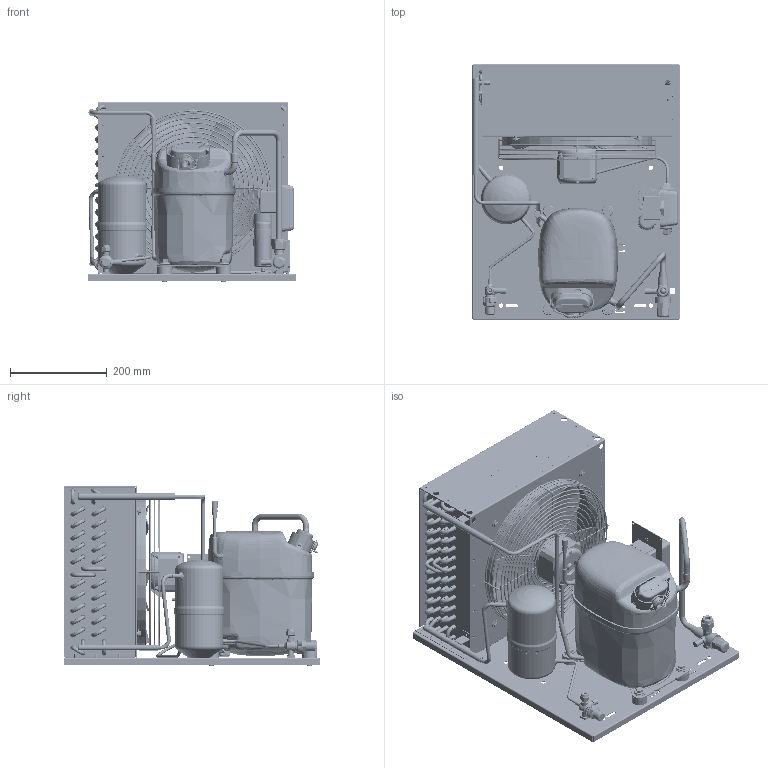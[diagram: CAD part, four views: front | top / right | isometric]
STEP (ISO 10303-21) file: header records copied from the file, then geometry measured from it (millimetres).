
FILE_DESCRIPTION(/* description */ ('Unknown'),/* implementation_level */ '2;1');
FILE_NAME(/* name */ '2298-0041_',/* time_stamp */ '2022-01-10T12:25:14+01:00',/* author */ ('Unknown'),/* organization */ ('Unknown'),/* preprocessor_version */ 'ST-DEVELOPER v16.7',/* originating_system */ 'Solid Edge',/* authorisation */ 'Unknown');
FILE_SCHEMA (('AUTOMOTIVE_DESIGN {1 0 10303 214 3 1 1}'));
Products named in the file (65): 2298-0041; 92505125_oa_0_0; 1440350c70_0; r50119606_0; r50119607_0; r50119601_0; r50000909_0; 2990210_8; r59700398_0; r50118004_0; r50115605_0; 84dm6x8xxxxgabf00_0; 84dm6x8xxxxgabf00_02_0; 84dm6x8xxxxgabf00_01_0; r50000850_0; 2990361_0; G30035_0_oa_0; G30035_01_0; G30035_04_0; G30035_03_0; a300-19_1; a300-19_costruzione_oa_1_1; a300-19_costruzione_oa_2_1; a300-19_costruzione_oa_3_1; a300-19_costruzione_oa_4_1; a300-19_costruzione_oa_5; 6072_24M12_0; 6062_22M6_3; 100_200vs00_3; 84fm8x12xxxteff00_3; 84DM8X6.9XXESRF00_3; gs26clx-a-csr05; 84im8xxxxxxtref00_0; 107b9151_0; 99510255_1; 8351_2_8; 99510255_Tubo_1; 8392_A_8; 84RM10X21XXPIAF00_8; 7030_4m12_0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
Assembly tree (154 placements, depth 4):
  2298-0041
    92505125_oa_0_0
    1440350c70_0
      r50119606_0
      r50119607_0
      r50119601_0
      r50000909_0
      2990210_8  x24
      r59700398_0  x30
      r50118004_0
      r50115605_0
      84dm6x8xxxxgabf00_0  x4
        84dm6x8xxxxgabf00_02_0
        84dm6x8xxxxgabf00_01_0
      r50000850_0  x2
      2990361_0  x2
    G30035_0_oa_0
      G30035_01_0
      G30035_04_0  x4
      G30035_03_0
    a300-19_1
      a300-19_costruzione_oa_1_1
      a300-19_costruzione_oa_2_1
      a300-19_costruzione_oa_3_1
      a300-19_costruzione_oa_4_1
      a300-19_costruzione_oa_5
    6072_24M12_0
    6062_22M6_3
    100_200vs00_3
    84fm8x12xxxteff00_3  x2
    84DM8X6.9XXESRF00_3
    gs26clx-a-csr05
    84im8xxxxxxtref00_0  x4
    107b9151_0  x4
    99510255_1
      8351_2_8
      99510255_Tubo_1
      8392_A_8
    84RM10X21XXPIAF00_8  x4
    7030_4m12_0
    84fm8x35xxxtesf00  x4
    7560_4_0
    gs34tb-a-csr_cilindro_piede_0  x4
    7560_2_3
    8392_A_8  x2
    7210-0003_3  x2
    7010_22_3
    84t4.8x8xxxtcca00_oa_6_2
    84t4.8x8xxxtcca00_oa_7_1
    84t4.8x8xxxtcca00_oa_8_1
    84t4.8x8xxxtcca00_oa_9
    84a4.2x9.5xtbcf01_8  x3
    84dm4x3.6xxesrf00_7  x4
    84fm6x14xxxtesf00_0  x4
    84RM6X18XXXPIAF00_0  x4
    84t4.8x8xxxtcca00_oa_10
    84t4.8x8xxxtcca00_oa_11
    99000082_secop_8
    99000082_SECOP_F-GAS_8
    680081688_0
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Bounding box: 430 x 530 x 372.82 mm (x, y, z)
Volume: 11270256.3 mm3; surface area: 4378468.5 mm2
Topology: 167 solids, 200 shells, 8730 faces, 21750 edges, 14092 vertices
Faces by surface type: plane 4939, cylinder 1794, bspline 919, torus 633, cone 392, sphere 53
Full cylindrical faces by diameter (mm): 0.5 x1, 1 x3, 1.2 x4, 2.2 x4, 2.7 x19, 2.95 x7, 3 x11, 3.19 x3, 3.2 x4, 3.242 x4, 3.3 x2, 3.4 x4, 3.5 x5, 3.6 x8, 3.7 x4, 3.8 x7, 3.85 x1, 3.9 x2, 4 x51, 4.2 x7, 4.3 x1, 4.4 x4, 4.5 x24, 4.6 x5, 4.66 x4, 4.7 x6, 5 x17, 5.1 x2, 5.2 x1, 5.4 x4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
Entity records: 281611 total; most frequent: CARTESIAN_POINT 85680, ORIENTED_EDGE 31616, DIRECTION 30266, EDGE_CURVE 16094, VERTEX_POINT 11272, LINE 10480, VECTOR 10480, AXIS2_PLACEMENT_3D 9893
